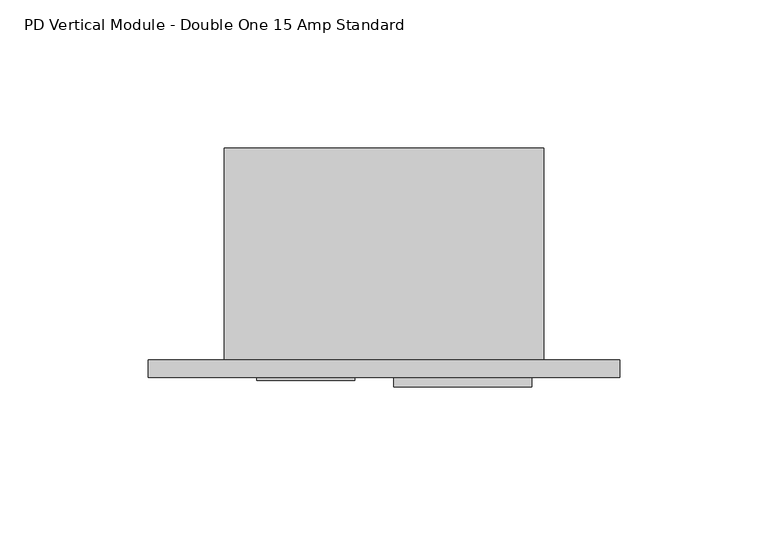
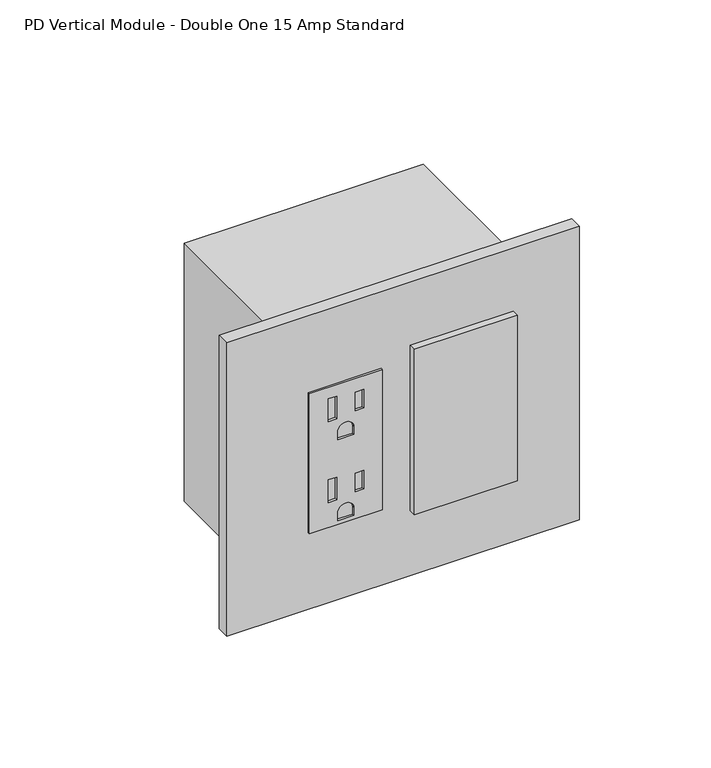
"""IFC4 building model written with IfcOpenShell, lengths in millimetres: proxy geometry, Electrical-Teknion-EPDMD_Vertical_Power_Data_Double-R2019 : PD Vertical Module - Double One 15 Amp Standard."""

from ifc_helpers import new_model, si_unit, point, frame, frame_2d, origin, place, context, project, spatial, polyline, circle_curve, trimmed, segment, composite_curve, outline, extrude, source, transform, mapped, element, save


def pd_vertical_module_double_one_15_amp_standard_e69900ea(model_context):
    return source(origin(), model_context, "Body", "SweptSolid", [
        extrude(outline(polyline([(490.5876229, 44.0944), (490.5876229, 11.0998), (423.6332229, 11.0998), (423.6332229, 44.0944), (490.5876229, 44.0944)]), holes=[polyline([(485.2028229, 23.4442), (474.3824229, 23.4442), (474.3824229, 19.6088), (485.2028229, 19.6088), (485.2028229, 23.4442)]), polyline([(484.2249229, 35.6108), (475.3603229, 35.6108), (475.3603229, 31.7754), (484.2249229, 31.7754), (484.2249229, 35.6108)]), composite_curve([segment(polyline([(464.1970229, 31.2293), (464.1970229, 23.9649), (467.8292229, 23.9649)]), True, "CONTINUOUS"), segment(trimmed(circle_curve(frame_2d((467.8292229, 27.5971)), 3.6322), [point((467.8292229, 23.9649))], [point((467.8292229, 31.2293))], True, "CARTESIAN"), True, "CONTINUOUS"), segment(polyline([(467.8292229, 31.2293), (464.1970229, 31.2293)]), True, "CONTINUOUS")], self_intersect=False), polyline([(446.4678229, 23.4442), (435.6474229, 23.4442), (435.6474229, 19.6088), (446.4678229, 19.6088), (446.4678229, 23.4442)]), polyline([(445.4899229, 35.6108), (436.6253229, 35.6108), (436.6253229, 31.7754), (445.4899229, 31.7754), (445.4899229, 35.6108)]), composite_curve([segment(polyline([(425.4620229, 31.2293), (425.4620229, 23.9649), (429.0942229, 23.9649)]), True, "CONTINUOUS"), segment(trimmed(circle_curve(frame_2d((429.0942229, 27.5971)), 3.6322), [point((429.0942229, 23.9649))], [point((429.0942229, 31.2293))], True, "CARTESIAN"), True, "CONTINUOUS"), segment(polyline([(429.0942229, 31.2293), (425.4620229, 31.2293)]), True, "CONTINUOUS")], self_intersect=False)]), frame((0.0, -6.9294746, 0.0), z_axis=(0.0, 1.0, 0.0), x_axis=(0.0, 0.0, 1.0)), (0.0, 0.0, 1.0), 1.0366746),
        extrude(outline(polyline([(57.3278, -5.8928), (103.8606, -5.8928), (103.8606, -9.0678), (57.3278, -9.0678), (57.3278, -5.8928)])), frame((0.0, 0.0, 417.9026971), z_axis=(0.0, 0.0, 1.0), x_axis=(1.0, 0.0, 0.0)), (0.0, 0.0, 1.0), 79.0448),
        extrude(outline(polyline([(-25.6794, 0.0), (133.7056, 0.0), (133.7056, -5.8928), (-25.6794, -5.8928), (-25.6794, 0.0)])), frame((0.0, 0.0, 386.9302229), z_axis=(0.0, 0.0, 1.0), x_axis=(1.0, 0.0, 0.0)), (0.0, 0.0, 1.0), 140.3604),
        extrude(outline(polyline([(108.0262, 0.0), (0.0, 0.0), (0.0, 71.7296), (108.0262, 71.7296), (108.0262, 0.0)])), frame((0.0, 0.0, 395.3630229), z_axis=(0.0, 0.0, 1.0), x_axis=(1.0, 0.0, 0.0)), (0.0, 0.0, 1.0), 123.4948),
    ])


if __name__ == "__main__":
    model = new_model("IFC4")
    model_context = context("Model", 3, world=origin())
    ifc_project = project(units=[si_unit("LENGTHUNIT", "METRE", prefix="MILLI")], contexts=[model_context])
    site = spatial("IfcSite", under=ifc_project)
    building = spatial("IfcBuilding", under=site)
    placement = place(None, origin())
    pd_vertical_module_double_one_15_amp_standard_shape = pd_vertical_module_double_one_15_amp_standard_e69900ea(model_context)
    element("IfcBuildingElementProxy", 1, Name="Electrical-Teknion-EPDMD_Vertical_Power_Data_Double-R2019 : PD Vertical Module - Double One 15 Amp Standard", ObjectType="Electrical-Teknion-EPDMD_Vertical_Power_Data_Double-R2019 : PD Vertical Module - Double One 15 Amp Standard", at=placement, inside=building, context=model_context, shape_type="MappedRepresentation", body=[
        mapped(pd_vertical_module_double_one_15_amp_standard_shape, transform((0.0, 0.0, 0.0), x_axis=(1.0, 0.0, 0.0), y_axis=(0.0, 1.0, 0.0), z_axis=(0.0, 0.0, 1.0))),
    ])
    save(model, "model.ifc")
